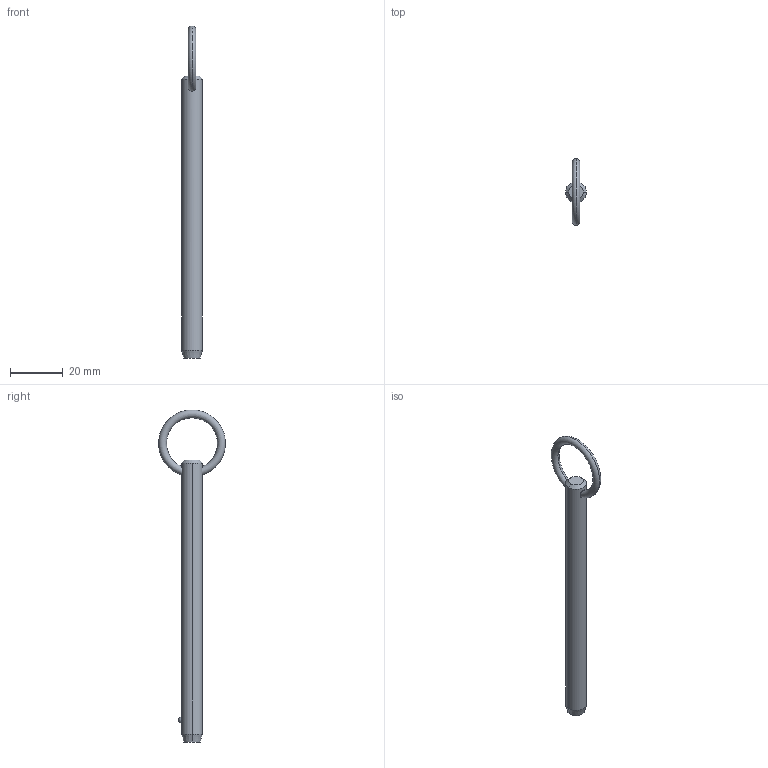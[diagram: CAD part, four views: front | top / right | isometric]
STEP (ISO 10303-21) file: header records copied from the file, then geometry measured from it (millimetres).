
FILE_DESCRIPTION (( 'STEP AP203' ), '1' );
FILE_NAME ('P1250.031-360.step', '2019-07-29T19:54:23', ( '' ), ( '' ), 'SwSTEP 2.0', 'SolidWorks 2017', '' );
FILE_SCHEMA (( 'CONFIG_CONTROL_DESIGN' ));
Length unit declared in the file: millimetre
Products named in the file (1): P1250.031-360
Bounding box: 7.93 x 25.36 x 126.31 mm (x, y, z)
Volume: 5698.5 mm3; surface area: 3307.8 mm2
Topology: 1 solids, 1 shells, 12 faces, 28 edges, 17 vertices
Faces by surface type: cone 4, torus 2, sphere 2, cylinder 2, plane 2
Entity records: 509 total; most frequent: CARTESIAN_POINT 176, DIRECTION 56, ORIENTED_EDGE 48, AXIS2_PLACEMENT_3D 25, EDGE_CURVE 24, EDGE_LOOP 15, VERTEX_POINT 15, FACE_OUTER_BOUND 12
